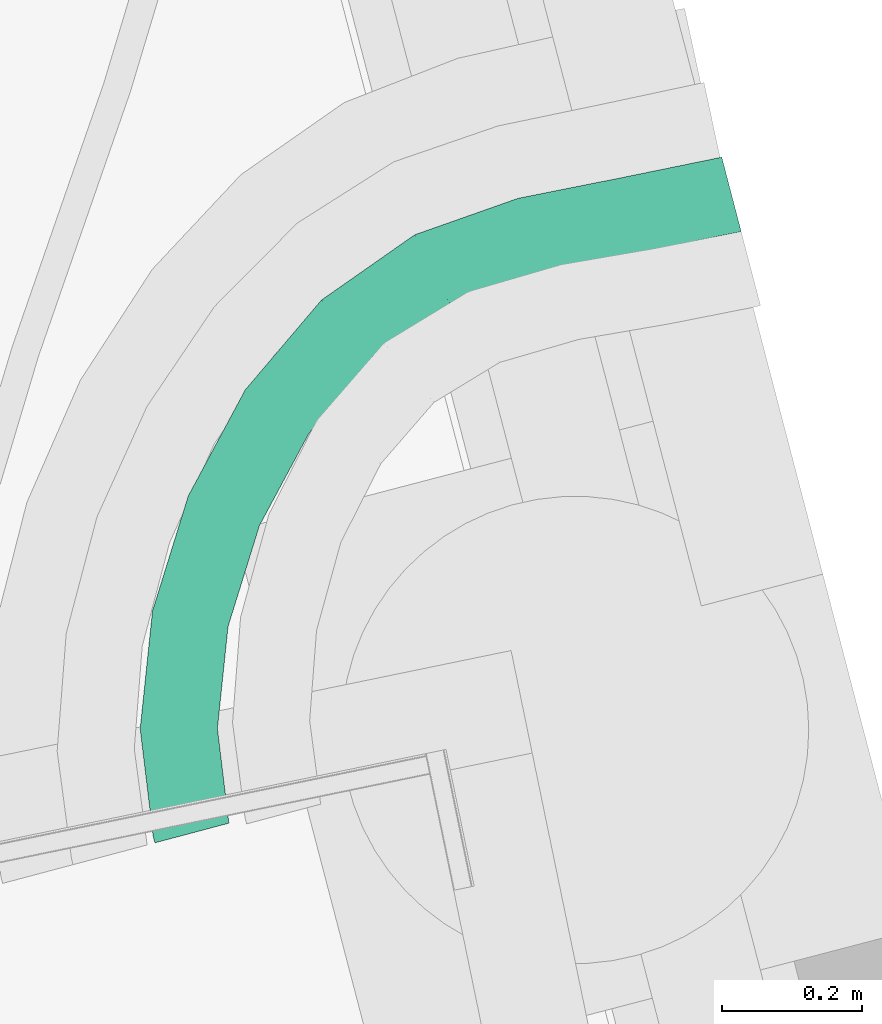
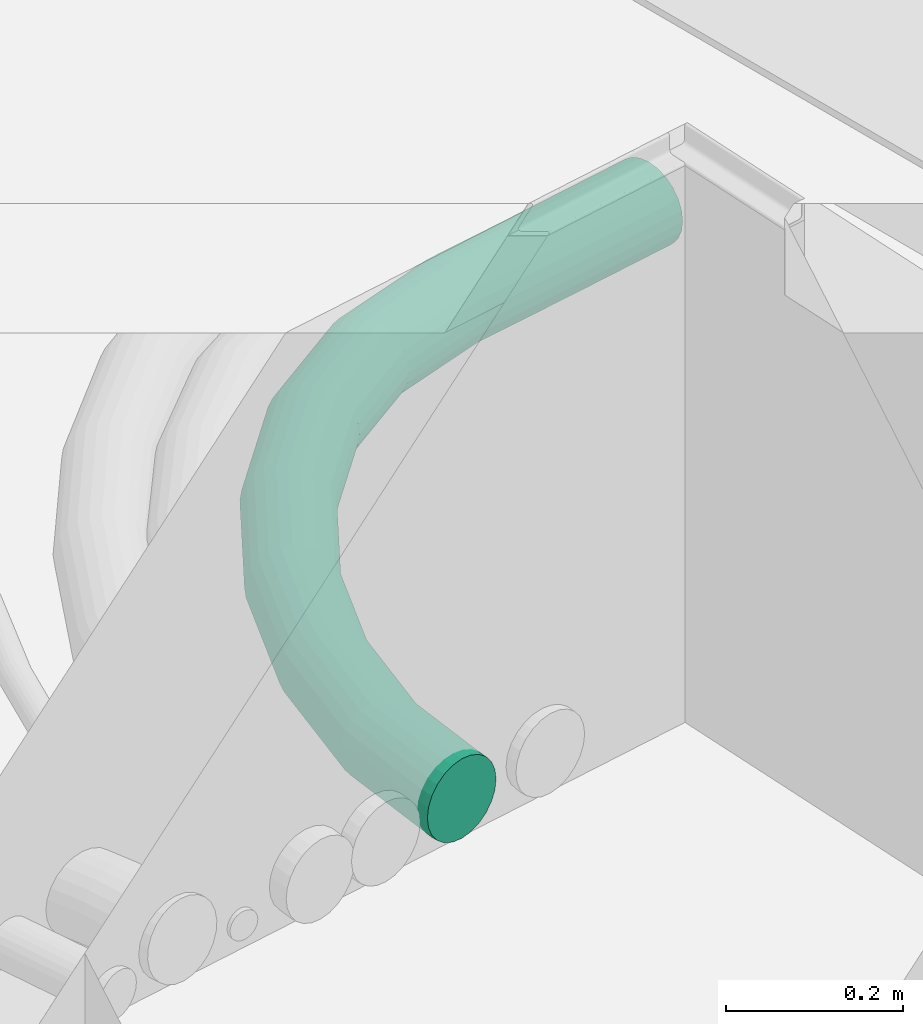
# One storey, part 24 of 29: 1 flow segment.
"""IFC2X3 building model written with IfcOpenShell, lengths in centimetres."""

import ifcopenshell
import ifcopenshell.guid

model = None  # the IFC model being written
_history = None  # IfcOwnerHistory: only IFC2X3 demands one
_inside = {}  # id of a spatial element -> (the spatial element, [elements in it])
_under = {}  # id of a project, library or spatial element -> (it, [spatial elements below it])
_declared = {}  # id of a project -> (the project, [libraries it declares])
_typed = {}  # id of a type object -> (the type object, [elements of that type])
_made_of = {}  # id of a material, layer set ... -> (it, [elements and type objects made of it])


def new_model(schema):
    """Start an empty IFC model of exactly this schema.

    Asked for "IFC4X3", IfcOpenShell would pick the latest addendum, in which some entities
    have other attributes; the version numbers below select the first issue.
    IFC2X3 requires an IfcOwnerHistory on every rooted entity: one is made here for all.
    """
    global model, _history
    if schema == "IFC4X3":
        model = ifcopenshell.file(schema_version=(4, 3, 0, 0))
    else:
        model = ifcopenshell.file(schema=schema)
    _inside.clear()
    _under.clear()
    _declared.clear()
    _typed.clear()
    _made_of.clear()
    _history = None
    if model.schema == "IFC2X3":
        org = make("IfcOrganization", Name="unknown")
        user = make(
            "IfcPersonAndOrganization",
            ThePerson=make("IfcPerson", FamilyName="unknown"),
            TheOrganization=org,
        )
        app = make(
            "IfcApplication",
            ApplicationDeveloper=org,
            Version="unknown",
            ApplicationFullName="unknown",
            ApplicationIdentifier="unknown",
        )
        _history = make(
            "IfcOwnerHistory",
            OwningUser=user,
            OwningApplication=app,
            ChangeAction="ADDED",
            CreationDate=0,
        )
    return model


def make(cls, **values):
    """One entity of the class cls with the attributes given. An attribute that is None is left unset."""
    return model.create_entity(
        cls, **{name: value for name, value in values.items() if value is not None}
    )


def entity(cls, *values):
    """Any entity or typed value of the class cls, its attributes in the order of the schema. None: left unset."""
    e = model.create_entity(cls)
    for i, value in enumerate(values):
        if value is not None:
            e[i] = value
    return e


def rooted(cls, **values):
    """An entity with a GlobalId (a new one), such as an element, a storey or a relation."""
    return make(cls, GlobalId=ifcopenshell.guid.new(), OwnerHistory=_history, **values)


def si_unit(unit_type, name, prefix=None):
    """IfcSIUnit, for example si_unit("LENGTHUNIT", "METRE", prefix="MILLI")."""
    return make("IfcSIUnit", UnitType=unit_type, Prefix=prefix, Name=name)


def converted_unit(unit_type, name, factor, base, dimensions=None, offset=None):
    """IfcConversionBasedUnit, such as the inch: factor (a typed value) times the base unit."""
    return make(
        "IfcConversionBasedUnit"
        if offset is None
        else "IfcConversionBasedUnitWithOffset",
        ConversionOffset=offset,
        Dimensions=None
        if dimensions is None
        else entity("IfcDimensionalExponents", *dimensions),
        UnitType=unit_type,
        Name=name,
        ConversionFactor=make(
            "IfcMeasureWithUnit", ValueComponent=factor, UnitComponent=base
        ),
    )


def derived_unit(unit_type, elements):
    """IfcDerivedUnit: a product of units, each with its exponent."""
    return make(
        "IfcDerivedUnit",
        Elements=[
            make("IfcDerivedUnitElement", Unit=unit, Exponent=power)
            for unit, power in elements
        ],
        UnitType=unit_type,
    )


def assignment(units):
    """IfcUnitAssignment: the units of a project."""
    return None if units is None else make("IfcUnitAssignment", Units=units)


def point(xyz):
    """IfcCartesianPoint."""
    return None if xyz is None else make("IfcCartesianPoint", Coordinates=xyz)


def direction(xyz):
    """IfcDirection."""
    return None if xyz is None else make("IfcDirection", DirectionRatios=xyz)


def frame(location, z_axis=None, x_axis=None):
    """IfcAxis2Placement3D, a coordinate frame: its origin and axes. An axis left out is left unset."""
    return make(
        "IfcAxis2Placement3D",
        Location=point(location),
        Axis=direction(z_axis),
        RefDirection=direction(x_axis),
    )


def origin():
    """The frame at (0, 0, 0) with its axes left unset."""
    return frame((0.0, 0.0, 0.0))


def place(relative_to, where):
    """IfcLocalPlacement: puts the frame where relative to a parent placement (None: the world)."""
    return make(
        "IfcLocalPlacement", PlacementRelTo=relative_to, RelativePlacement=where
    )


def context(
    kind, dimensions, precision=None, world=None, true_north=None, identifier=None
):
    """IfcGeometricRepresentationContext, for example the 3D "Model" context."""
    return make(
        "IfcGeometricRepresentationContext",
        ContextIdentifier=identifier,
        ContextType=kind,
        CoordinateSpaceDimension=dimensions,
        Precision=precision,
        WorldCoordinateSystem=world,
        TrueNorth=true_north,
    )


def subcontext(parent, identifier, kind, view, scale=None):
    """IfcGeometricRepresentationSubContext, for example "Body" below "Model"."""
    return make(
        "IfcGeometricRepresentationSubContext",
        ContextIdentifier=identifier,
        ContextType=kind,
        ParentContext=parent,
        TargetScale=scale,
        TargetView=view,
    )


def project(units=None, contexts=None):
    """IfcProject with its units and contexts."""
    return rooted(
        "IfcProject",
        Name="project",
        RepresentationContexts=contexts,
        UnitsInContext=assignment(units),
    )


def spatial(cls, under=None, at=None, **own):
    """A site, building, storey or space (cls), placed at a placement, below another one or the project."""
    s = rooted(cls, ObjectPlacement=at, **own)
    if under is not None:
        _under.setdefault(under.id(), (under, []))[1].append(s)
    return s


def faces_of(points, faces, orient=None, outer=None):
    """IfcFace entities. A face is a list of loops; a loop is a list of indices into points, from 0.

    orient and outer hold one flag for each loop. By default every Orientation is true, the
    first loop of a face is its IfcFaceOuterBound and the others are IfcFaceBound.
    """
    made = []
    for i, loops in enumerate(faces):
        bounds = []
        for j, loop in enumerate(loops):
            is_outer = j == 0 if outer is None else outer[i][j]
            bounds.append(
                make(
                    "IfcFaceOuterBound" if is_outer else "IfcFaceBound",
                    Bound=make("IfcPolyLoop", Polygon=[points[k] for k in loop]),
                    Orientation=True if orient is None else orient[i][j],
                )
            )
        made.append(make("IfcFace", Bounds=bounds))
    return made


def faceted_brep(points, faces, orient=None, outer=None, voids=None):
    """IfcFacetedBrep: a solid bounded by flat faces; with voids (closed shells), ...WithVoids."""
    shared = [point(p) for p in points]
    hull = make("IfcClosedShell", CfsFaces=faces_of(shared, faces, orient, outer))
    if voids is None:
        return make("IfcFacetedBrep", Outer=hull)
    return make(
        "IfcFacetedBrepWithVoids",
        Outer=hull,
        Voids=[
            make(cls, CfsFaces=faces_of(shared, fs, o, b)) for cls, fs, o, b in voids
        ],
    )


def shape(context_of_items, identifier, shape_type, items):
    """IfcShapeRepresentation: the items that make up one representation, for example the "Body"."""
    return make(
        "IfcShapeRepresentation",
        ContextOfItems=context_of_items,
        RepresentationIdentifier=identifier,
        RepresentationType=shape_type,
        Items=items,
    )


def made_of(thing, what):
    """Note that an element or type object is made of a material, layer set ...; save() writes the relation."""
    if what is not None:
        _made_of.setdefault(what.id(), (what, []))[1].append(thing)
    return thing


def type_object(cls, material=None, **own):
    """A type object (cls), such as IfcWallType, which elements share."""
    return made_of(rooted(cls, **own), material)


def element(
    cls,
    number,
    at=None,
    inside=None,
    cuts=None,
    type_object=None,
    material=None,
    context=None,
    identifier="Body",
    shape_type=None,
    held_by="IfcProductDefinitionShape",
    body=None,
    shapes=None,
    **own,
):
    """One element of the class cls, such as IfcWall. Its Tag is "e" and its number.

    at: its placement. inside: the storey or other place that contains it. cuts: it is an
    opening in that element (IfcRelVoidsElement). A single representation is given by context,
    identifier, shape_type and body (its items); several are given by shapes. held_by: the class
    of the entity that holds the representations. save() writes the other relations.
    """
    e = rooted(cls, Tag="e%d" % number, ObjectPlacement=at, **own)
    if body is not None:
        shapes = [shape(context, identifier, shape_type, body)]
    if shapes is not None:
        e.Representation = make(held_by, Representations=shapes)
    if inside is not None:
        _inside.setdefault(inside.id(), (inside, []))[1].append(e)
    if cuts is not None:
        rooted(
            "IfcRelVoidsElement", RelatingBuildingElement=cuts, RelatedOpeningElement=e
        )
    if type_object is not None:
        _typed.setdefault(type_object.id(), (type_object, []))[1].append(e)
    return made_of(e, material)


def aggregate(whole, parts):
    """IfcRelAggregates: a whole, such as a stair, and the parts it consists of."""
    return rooted("IfcRelAggregates", RelatingObject=whole, RelatedObjects=parts)


def save(model, path):
    """Write the relations noted so far, then the file.

    IfcRelAggregates (storeys below a building ...), IfcRelContainedInSpatialStructure (elements
    in a storey), IfcRelDefinesByType, IfcRelAssociatesMaterial and IfcRelDeclares: one each for
    every whole, place, type object, material and project.
    """
    for whole, parts in _under.values():
        aggregate(whole, parts)
    for where, things in _inside.values():
        rooted(
            "IfcRelContainedInSpatialStructure",
            RelatedElements=things,
            RelatingStructure=where,
        )
    for kind, things in _typed.values():
        rooted("IfcRelDefinesByType", RelatedObjects=things, RelatingType=kind)
    for what, things in _made_of.values():
        rooted("IfcRelAssociatesMaterial", RelatedObjects=things, RelatingMaterial=what)
    for by, libraries in _declared.values():
        rooted("IfcRelDeclares", RelatingContext=by, RelatedDefinitions=libraries)
    model.write(path)


model = new_model("IFC2X3")

# Units and contexts
model_context = context("Model", 3, precision=0.001, world=origin(), true_north=direction((6.12303176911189e-17, 1.0)))
body_context = subcontext(model_context, "Body", "Model", "MODEL_VIEW")
ifc_project = project(units=[si_unit("LENGTHUNIT", "METRE", prefix="CENTI"), si_unit("AREAUNIT", "SQUARE_METRE"), si_unit("VOLUMEUNIT", "CUBIC_METRE"), converted_unit("PLANEANGLEUNIT", "DEGREE", entity("IfcRatioMeasure", 0.0174532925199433), si_unit("PLANEANGLEUNIT", "RADIAN"), dimensions=[0, 0, 0, 0, 0, 0, 0]), si_unit("MASSUNIT", "GRAM", prefix="KILO"), derived_unit("MASSDENSITYUNIT", [(si_unit("MASSUNIT", "GRAM", prefix="KILO"), 1), (si_unit("LENGTHUNIT", "METRE"), -3)]), si_unit("TIMEUNIT", "SECOND"), si_unit("FREQUENCYUNIT", "HERTZ"), si_unit("THERMODYNAMICTEMPERATUREUNIT", "DEGREE_CELSIUS"), derived_unit("THERMALTRANSMITTANCEUNIT", [(si_unit("MASSUNIT", "GRAM", prefix="KILO"), 1), (si_unit("THERMODYNAMICTEMPERATUREUNIT", "KELVIN"), -1), (si_unit("TIMEUNIT", "SECOND"), -3)]), derived_unit("VOLUMETRICFLOWRATEUNIT", [(si_unit("LENGTHUNIT", "METRE"), 3), (si_unit("TIMEUNIT", "SECOND"), -1)]), si_unit("ELECTRICCURRENTUNIT", "AMPERE"), si_unit("ELECTRICVOLTAGEUNIT", "VOLT"), si_unit("POWERUNIT", "WATT"), si_unit("FORCEUNIT", "NEWTON"), si_unit("ILLUMINANCEUNIT", "LUX"), si_unit("LUMINOUSFLUXUNIT", "LUMEN"), si_unit("LUMINOUSINTENSITYUNIT", "CANDELA"), derived_unit("USERDEFINED", [(si_unit("MASSUNIT", "GRAM", prefix="KILO"), -1), (si_unit("LENGTHUNIT", "METRE"), -2), (si_unit("TIMEUNIT", "SECOND"), 3), (si_unit("LUMINOUSFLUXUNIT", "LUMEN"), 1)]), derived_unit("LINEARVELOCITYUNIT", [(si_unit("LENGTHUNIT", "METRE"), 1), (si_unit("TIMEUNIT", "SECOND"), -1)]), si_unit("PRESSUREUNIT", "PASCAL"), derived_unit("USERDEFINED", [(si_unit("LENGTHUNIT", "METRE"), -2), (si_unit("MASSUNIT", "GRAM", prefix="KILO"), 1), (si_unit("TIMEUNIT", "SECOND"), -2)])], contexts=[model_context])

# Site, building, storey
site_placement = place(None, origin())
site = spatial("IfcSite", under=ifc_project, at=site_placement, Name="Default", CompositionType="ELEMENT")
building_placement = place(site_placement, origin())
building = spatial("IfcBuilding", under=site, at=building_placement, Name="CAGE 03", CompositionType="ELEMENT")
storey_placement = place(building_placement, frame((0.0, 0.0, -34.0)))
storey = spatial("IfcBuildingStorey", under=building, at=storey_placement, Name="+3.66", CompositionType="ELEMENT", Elevation=-34.0000000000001)

# Flow segment
duct_segment_type = type_object("IfcDuctSegmentType", Name="Gaine flexible circulaire:Flex - Round", PredefinedType="FLEXIBLESEGMENT")
flow_segment_placement = place(storey_placement, frame((11602.3229049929, 3545.23054855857, -79.1595272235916)))
element("IfcFlowSegment", 1, at=flow_segment_placement, inside=storey, type_object=duct_segment_type, Name="Gaine flexible circulaire:Flex - Round", ObjectType="Gaine flexible circulaire:Flex - Round", context=body_context, shape_type="Brep", body=[
    faceted_brep([(3.82910210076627, 0.573686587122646, 9.54861452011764), (2.98443021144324, 0.348971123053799, 8.40952722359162), (2.45344726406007, 0.207709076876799, 7.08303197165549), (2.27233886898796, 0.15952722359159, 5.65952722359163), (2.45344726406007, 0.207709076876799, 4.23602247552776), (2.98443021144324, 0.348971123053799, 2.90952722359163), (3.82910210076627, 0.573686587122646, 1.77043992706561), (4.92989993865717, 0.866541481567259, 0.896387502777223), (6.21180617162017, 1.20757822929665, 0.346935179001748), (7.58746100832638, 1.57355573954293, 0.159527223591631), (8.96311584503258, 1.93953324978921, 0.346935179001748), (10.2450220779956, 2.2805699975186, 0.896387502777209), (11.3458199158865, 2.57342489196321, 1.7704399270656), (12.1904918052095, 2.79814035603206, 2.90952722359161), (12.7214747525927, 2.93940240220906, 4.23602247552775), (12.9025831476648, 2.98758425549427, 5.65952722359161), (12.7214747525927, 2.93940240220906, 7.08303197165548), (12.1904918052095, 2.79814035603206, 8.40952722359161), (11.3458199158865, 2.57342489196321, 9.54861452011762), (10.2450220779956, 2.2805699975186, 10.422666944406), (8.96311584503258, 1.93953324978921, 10.9721192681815), (7.58746100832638, 1.57355573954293, 11.1595272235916), (6.21180617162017, 1.20757822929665, 10.9721192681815), (4.92989993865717, 0.866541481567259, 10.422666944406), (2.01506601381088, 1.1265774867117, 5.65952722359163), (2.1995483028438, 1.16207737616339, 4.23602247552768), (2.74042300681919, 1.26615778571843, 2.90952722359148), (3.60083040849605, 1.43172580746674, 1.77043992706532), (4.72213516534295, 1.64749825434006, 0.896387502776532), (6.02792221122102, 1.89877059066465, 0.346935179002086), (7.42920431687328, 2.16841902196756, 0.159527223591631), (8.83048642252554, 2.43806745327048, 0.346935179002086), (10.1362734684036, 2.68933978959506, 0.896387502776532), (11.2575782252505, 2.90511223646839, 1.77043992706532), (12.6588603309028, 3.17476066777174, 4.23602247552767), (12.8433426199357, 3.210260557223, 5.65952722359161), (12.1179856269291, 3.07068025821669, 2.90952722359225), (12.1179856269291, 3.07068025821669, 8.40952722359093), (11.2575782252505, 2.90511223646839, 9.54861452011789), (12.6588603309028, 3.17476066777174, 7.0830319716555), (8.83048642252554, 2.43806745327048, 10.9721192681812), (7.42920431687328, 2.16841902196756, 11.1595272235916), (10.1362734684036, 2.68933978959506, 10.4226669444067), (6.02792221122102, 1.89877059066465, 10.9721192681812), (4.72213516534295, 1.64749825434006, 10.4226669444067), (3.60083040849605, 1.43172580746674, 9.54861452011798), (2.74042300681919, 1.26615778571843, 8.40952722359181), (2.1995483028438, 1.16207737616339, 7.08303197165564), (84.2187544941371, 95.7929040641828, 10.422666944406), (84.5539329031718, 94.5094536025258, 10.9721192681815), (84.9136236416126, 93.1321416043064, 11.1595272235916), (85.2733143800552, 91.7548296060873, 10.9721192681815), (85.6084927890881, 90.4713791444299, 10.422666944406), (85.896317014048, 89.3692552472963, 9.54861452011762), (86.1171723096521, 88.5235658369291, 8.40952722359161), (86.2560077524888, 87.9919432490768, 7.08303197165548), (86.3033619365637, 87.810616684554, 5.65952722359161), (86.2560077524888, 87.9919432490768, 4.23602247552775), (86.1171723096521, 88.5235658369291, 2.90952722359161), (85.896317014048, 89.3692552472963, 1.77043992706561), (85.6084927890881, 90.4713791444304, 0.896387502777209), (85.2733143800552, 91.7548296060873, 0.346935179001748), (84.9136236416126, 93.1321416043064, 0.159527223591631), (84.5539329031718, 94.5094536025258, 0.346935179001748), (84.2187544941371, 95.7929040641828, 0.896387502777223), (83.9309302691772, 96.8950279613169, 1.77043992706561), (83.7100749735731, 97.7407173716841, 2.90952722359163), (83.5712395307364, 98.2723399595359, 4.23602247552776), (83.5238853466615, 98.4536665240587, 5.65952722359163), (83.5712395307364, 98.2723399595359, 7.08303197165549), (83.7100749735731, 97.7407173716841, 8.40952722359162), (83.9309302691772, 96.8950279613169, 9.54861452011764), (0.15952722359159, 16.4897730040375, 5.65952722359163), (0.348113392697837, 16.4912942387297, 4.23602247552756), (0.901020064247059, 16.4957542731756, 2.90952722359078), (1.78056756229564, 16.5028491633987, 1.77043992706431), (2.92681617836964, 16.5120954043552, 0.896387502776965), (4.26165096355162, 16.5228628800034, 0.346935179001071), (5.69410513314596, 16.5344178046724, 0.159527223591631), (7.12655930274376, 16.5459727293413, 0.346935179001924), (8.46139408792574, 16.5567402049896, 0.896387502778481), (9.60764270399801, 16.5659864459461, 1.77043992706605), (10.4871902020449, 16.5730813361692, 2.90952722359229), (11.0400968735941, 16.577541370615, 4.23602247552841), (11.2286830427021, 16.5790626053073, 5.65952722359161), (11.0400968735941, 16.577541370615, 7.08303197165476), (10.4871902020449, 16.5730813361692, 8.40952722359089), (9.60764270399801, 16.5659864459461, 9.54861452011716), (7.12655930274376, 16.5459727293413, 10.9721192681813), (5.69410513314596, 16.5344178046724, 11.1595272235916), (8.46139408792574, 16.5567402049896, 10.4226669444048), (4.26165096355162, 16.5228628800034, 10.9721192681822), (2.92681617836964, 16.5120954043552, 10.4226669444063), (1.78056756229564, 16.5028491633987, 9.54861452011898), (0.901020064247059, 16.4957542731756, 8.40952722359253), (0.348113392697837, 16.4912942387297, 7.08303197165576), (1.92511832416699, 33.3949964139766, 5.65952722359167), (2.10958425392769, 33.3570670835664, 4.23602247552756), (2.65041099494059, 33.2458639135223, 2.90952722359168), (3.51074209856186, 33.0689652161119, 1.77043992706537), (4.63194742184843, 32.8384263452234, 0.896387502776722), (5.93761867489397, 32.5699581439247, 0.346935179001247), (7.3387765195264, 32.2818562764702, 0.159527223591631), (8.73993436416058, 31.9937544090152, 0.34693517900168), (10.0456056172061, 31.7252862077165, 0.896387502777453), (11.1668109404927, 31.494747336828, 1.77043992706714), (12.0271420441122, 31.3178486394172, 2.90952722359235), (12.5679687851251, 31.2066454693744, 4.23602247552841), (12.7524347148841, 31.1687161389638, 5.65952722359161), (12.5679687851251, 31.2066454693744, 7.08303197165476), (12.0271420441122, 31.3178486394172, 8.40952722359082), (11.1668109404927, 31.494747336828, 9.54861452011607), (8.73993436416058, 31.9937544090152, 10.9721192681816), (7.3387765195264, 32.2818562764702, 11.1595272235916), (10.0456056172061, 31.7252862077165, 10.4226669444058), (5.93761867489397, 32.5699581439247, 10.972119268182), (4.63194742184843, 32.8384263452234, 10.4226669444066), (3.51074209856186, 33.0689652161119, 9.54861452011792), (2.65041099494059, 33.2458639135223, 8.40952722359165), (2.10958425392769, 33.3570670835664, 7.0830319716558), (7.06296431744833, 49.9153871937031, 5.65952722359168), (7.2365761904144, 49.8425573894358, 4.23602247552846), (7.7455804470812, 49.6290312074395, 2.90952722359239), (8.55528928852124, 49.2893601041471, 1.77043992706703), (9.61052239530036, 48.8466921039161, 0.896387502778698), (10.839367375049, 48.3311942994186, 0.346935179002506), (12.1580804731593, 47.7779970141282, 0.159527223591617), (13.4767935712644, 47.22479972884, 0.346935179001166), (14.7056385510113, 46.7093019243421, 0.896387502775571), (15.7608716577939, 46.2666339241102, 1.77043992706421), (16.5705804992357, 45.9269628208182, 2.90952722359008), (17.0795847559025, 45.7134366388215, 4.23602247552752), (17.2531966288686, 45.6406068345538, 5.6595272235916), (17.0795847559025, 45.7134366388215, 7.08303197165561), (16.5705804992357, 45.9269628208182, 8.40952722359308), (15.7608716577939, 46.2666339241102, 9.54861452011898), (13.4767935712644, 47.22479972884, 10.9721192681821), (12.1580804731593, 47.7779970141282, 11.1595272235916), (14.7056385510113, 46.7093019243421, 10.4226669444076), (10.839367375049, 48.3311942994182, 10.9721192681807), (9.61052239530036, 48.8466921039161, 10.4226669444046), (8.55528928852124, 49.2893601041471, 9.54861452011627), (7.7455804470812, 49.6290312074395, 8.40952722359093), (7.2365761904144, 49.8425573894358, 7.08303197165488), (15.2184009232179, 65.0996344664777, 5.65952722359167), (15.3741274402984, 64.9935047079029, 4.23602247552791), (15.8306944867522, 64.6823479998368, 2.90952722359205), (16.5569877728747, 64.187369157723, 1.77043992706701), (17.5035116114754, 63.5423001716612, 0.89638750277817), (18.6057619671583, 62.7911014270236, 0.34693517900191), (19.7886222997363, 61.9849658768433, 0.159527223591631), (20.9714826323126, 61.1788303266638, 0.346935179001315), (22.0737329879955, 60.4276315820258, 0.896387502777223), (23.0202568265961, 59.7825625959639, 1.77043992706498), (23.7465501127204, 59.2875837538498, 2.90952722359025), (24.2031171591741, 58.9764270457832, 4.23602247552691), (24.3588436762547, 58.8702972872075, 5.65952722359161), (24.2031171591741, 58.9764270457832, 7.08303197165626), (23.7465501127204, 59.2875837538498, 8.40952722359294), (23.0202568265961, 59.7825625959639, 9.54861452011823), (20.9714826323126, 61.1788303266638, 10.9721192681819), (19.7886222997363, 61.9849658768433, 11.1595272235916), (22.0737329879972, 60.4276315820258, 10.422666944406), (18.6057619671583, 62.7911014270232, 10.9721192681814), (17.5035116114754, 63.5423001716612, 10.4226669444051), (16.5569877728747, 64.187369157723, 9.5486145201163), (15.8306944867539, 64.6823479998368, 8.40952722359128), (15.3741274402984, 64.9935047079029, 7.08303197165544), (26.1316027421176, 77.9635998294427, 5.65952722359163), (26.2588835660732, 77.8239396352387, 4.23602247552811), (26.6320520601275, 77.4144766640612, 2.90952722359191), (27.225677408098, 76.7631151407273, 1.77043992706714), (27.9993050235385, 75.914244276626, 0.896387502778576), (28.9002134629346, 74.9257132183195, 0.346935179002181), (29.8670073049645, 73.8648887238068, 0.159527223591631), (30.8338011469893, 72.8040642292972, 0.346935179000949), (31.7347095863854, 71.8155331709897, 0.896387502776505), (32.5083372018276, 70.9666623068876, 1.77043992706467), (33.1019625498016, 70.3153007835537, 2.90952722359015), (33.4751310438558, 69.9058378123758, 4.23602247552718), (33.6024118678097, 69.7661776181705, 5.65952722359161), (33.4751310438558, 69.9058378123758, 7.08303197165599), (33.1019625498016, 70.3153007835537, 8.40952722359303), (32.5083372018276, 70.9666623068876, 9.54861452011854), (30.8338011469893, 72.8040642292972, 10.9721192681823), (29.8670073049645, 73.8648887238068, 11.1595272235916), (31.7347095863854, 71.8155331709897, 10.4226669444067), (28.9002134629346, 74.9257132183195, 10.9721192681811), (27.9993050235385, 75.914244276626, 10.4226669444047), (27.225677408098, 76.7631151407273, 9.54861452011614), (26.6320520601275, 77.4144766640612, 8.40952722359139), (26.2588835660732, 77.8239396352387, 7.08303197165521), (39.4910307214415, 87.3177580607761, 5.65952722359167), (39.5775322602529, 87.1495445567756, 4.23602247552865), (39.8311419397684, 86.6563675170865, 2.90952722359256), (40.2345766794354, 85.8718361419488, 1.77043992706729), (40.7603430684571, 84.8494149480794, 0.89638750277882), (41.372610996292, 83.6587802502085, 0.346935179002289), (42.0296554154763, 82.3810718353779, 0.159527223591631), (42.6866998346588, 81.103363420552, 0.34693517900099), (43.2989677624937, 79.9127287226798, 0.896387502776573), (43.8247341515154, 78.8903075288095, 1.77043992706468), (44.2281688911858, 78.1057761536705, 2.90952722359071), (44.4817785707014, 77.6125991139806, 4.23602247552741), (44.5682801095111, 77.4443856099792, 5.65952722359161), (44.4817785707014, 77.6125991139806, 7.08303197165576), (44.2281688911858, 78.1057761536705, 8.40952722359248), (43.8247341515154, 78.8903075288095, 9.54861452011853), (42.6866998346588, 81.103363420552, 10.9721192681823), (42.0296554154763, 82.3810718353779, 11.1595272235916), (43.2989677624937, 79.9127287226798, 10.4226669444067), (41.372610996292, 83.6587802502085, 10.972119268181), (40.7603430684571, 84.8494149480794, 10.4226669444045), (40.2345766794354, 85.8718361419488, 9.54861452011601), (39.8311419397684, 86.6563675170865, 8.40952722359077), (39.5775322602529, 87.1495445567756, 7.08303197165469), (54.3375800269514, 92.5543227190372, 5.65952722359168), (54.387300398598, 92.3731360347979, 4.23602247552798), (54.5330731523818, 91.8419235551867, 2.90952722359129), (54.7649641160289, 90.9968865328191, 1.77043992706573), (55.0671703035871, 89.8956128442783, 0.896387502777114), (55.4190968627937, 88.613152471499, 0.346935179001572), (55.7967605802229, 87.2369029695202, 0.159527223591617), (56.1744242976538, 85.860653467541, 0.346935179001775), (56.5263508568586, 84.5781930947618, 0.896387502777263), (56.8285570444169, 83.4769194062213, 1.77043992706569), (57.0604480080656, 82.6318823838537, 2.90952722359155), (57.2062207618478, 82.1006699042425, 4.23602247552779), (57.2559411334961, 81.9194832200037, 5.6595272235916), (57.2062207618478, 82.1006699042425, 7.08303197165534), (57.0604480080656, 82.6318823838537, 8.40952722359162), (56.8285570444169, 83.4769194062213, 9.54861452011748), (56.1744242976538, 85.860653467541, 10.9721192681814), (55.7967605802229, 87.2369029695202, 11.1595272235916), (56.5263508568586, 84.5781930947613, 10.4226669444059), (55.4190968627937, 88.613152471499, 10.9721192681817), (55.0671703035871, 89.8956128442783, 10.4226669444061), (54.7649641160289, 90.9968865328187, 9.54861452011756), (54.5330731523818, 91.8419235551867, 8.40952722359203), (54.387300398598, 92.3731360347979, 7.0830319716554), (69.3222796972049, 95.3470856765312, 4.23602247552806), (69.4310356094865, 94.8085021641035, 2.90952722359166), (69.2851850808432, 95.5307864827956, 5.65952722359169), (69.6040412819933, 93.9517395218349, 1.77043992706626), (70.0920666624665, 91.5349290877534, 0.346935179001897), (70.3738282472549, 90.1395829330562, 0.159527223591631), (69.8295066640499, 92.8351847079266, 0.896387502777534), (70.6555898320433, 88.7442367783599, 0.346935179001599), (70.9181498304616, 87.4439811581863, 0.896387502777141), (71.1436152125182, 86.327426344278, 1.77043992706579), (71.316620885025, 85.4706637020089, 2.90952722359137), (71.4253767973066, 84.9320801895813, 4.23602247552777), (71.4624714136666, 84.7483793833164, 5.65952722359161), (71.4253767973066, 84.9320801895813, 7.08303197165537), (71.316620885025, 85.4706637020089, 8.4095272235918), (71.1436152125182, 86.327426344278, 9.54861452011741), (70.9181498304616, 87.4439811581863, 10.4226669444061), (70.6555898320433, 88.7442367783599, 10.9721192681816), (70.3738282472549, 90.1395829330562, 11.1595272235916), (70.0920666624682, 91.5349290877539, 10.9721192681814), (69.8295066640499, 92.8351847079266, 10.4226669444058), (69.6040412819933, 93.9517395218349, 9.54861452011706), (69.4310356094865, 94.8085021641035, 8.40952722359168), (69.3222796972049, 95.3470856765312, 7.0830319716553), (83.4297177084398, 98.2353809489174, 4.23602247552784), (83.5543278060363, 97.7000433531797, 2.90952722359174), (83.3872155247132, 98.4179746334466, 5.65952722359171), (83.7525538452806, 96.848444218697, 1.7704399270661), (84.3117224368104, 94.4461993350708, 0.346935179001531), (84.6345585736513, 93.0592626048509, 0.159527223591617), (84.0108870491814, 95.738618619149, 0.896387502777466), (84.9573947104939, 91.6723258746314, 0.346935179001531), (85.2582300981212, 90.3799065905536, 0.896387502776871), (85.5165633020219, 89.2700809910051, 1.77043992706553), (85.7147893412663, 88.4184818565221, 2.90952722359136), (85.8393994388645, 87.8831442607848, 4.23602247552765), (85.8819016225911, 87.7005505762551, 5.6595272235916), (85.8393994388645, 87.8831442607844, 7.0830319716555), (85.7147893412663, 88.4184818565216, 8.40952722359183), (85.5165633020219, 89.2700809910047, 9.54861452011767), (85.2582300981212, 90.3799065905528, 10.422666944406), (84.9573947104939, 91.672325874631, 10.9721192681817), (84.6345585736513, 93.0592626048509, 11.1595272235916), (84.3117224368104, 94.4461993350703, 10.9721192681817), (84.0108870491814, 95.7386186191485, 10.422666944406), (83.7525538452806, 96.848444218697, 9.54861452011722), (83.5543278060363, 97.7000433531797, 8.40952722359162), (83.4297177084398, 98.2353809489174, 7.08303197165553)], [[[0, 1, 2, 3, 4, 5, 6, 7, 8, 9, 10, 11, 12, 13, 14, 15, 16, 17, 18, 19, 20, 21, 22, 23]], [[3, 24, 25, 4]], [[4, 25, 26, 5]], [[5, 26, 27, 6]], [[7, 28, 29, 8]], [[8, 29, 30, 9]], [[6, 27, 28, 7]], [[31, 32, 11, 10]], [[30, 31, 10, 9]], [[11, 32, 33, 12]], [[34, 35, 15, 14]], [[36, 34, 14, 13]], [[12, 33, 36, 13]], [[17, 37, 38, 18]], [[39, 37, 17, 16]], [[15, 35, 39, 16]], [[40, 41, 21, 20]], [[42, 40, 20, 19]], [[38, 42, 19, 18]], [[23, 22, 43, 44]], [[0, 23, 44, 45]], [[21, 41, 43, 22]], [[2, 1, 46, 47]], [[3, 2, 47, 24]], [[45, 46, 1, 0]], [[48, 49, 50, 51, 52, 53, 54, 55, 56, 57, 58, 59, 60, 61, 62, 63, 64, 65, 66, 67, 68, 69, 70, 71]], [[24, 72, 73, 25]], [[25, 73, 74, 26]], [[26, 74, 75, 27]], [[27, 75, 76, 28]], [[28, 76, 77, 29]], [[78, 30, 29, 77]], [[79, 80, 32, 31]], [[78, 79, 31, 30]], [[81, 33, 32, 80]], [[82, 83, 34, 36]], [[82, 36, 33, 81]], [[84, 35, 34, 83]], [[85, 86, 37, 39]], [[84, 85, 39, 35]], [[38, 37, 86, 87]], [[88, 89, 41, 40]], [[90, 88, 40, 42]], [[87, 90, 42, 38]], [[43, 41, 89, 91]], [[44, 43, 91, 92]], [[45, 44, 92, 93]], [[47, 46, 94, 95]], [[24, 47, 95, 72]], [[93, 94, 46, 45]], [[73, 72, 96, 97]], [[74, 73, 97, 98]], [[98, 99, 75, 74]], [[76, 75, 99, 100]], [[77, 76, 100, 101]], [[78, 77, 101, 102]], [[103, 104, 80, 79]], [[102, 103, 79, 78]], [[81, 80, 104, 105]], [[106, 107, 83, 82]], [[105, 106, 82, 81]], [[84, 83, 107, 108]], [[109, 110, 86, 85]], [[108, 109, 85, 84]], [[111, 87, 86, 110]], [[112, 113, 89, 88]], [[114, 112, 88, 90]], [[114, 90, 87, 111]], [[89, 113, 115, 91]], [[91, 115, 116, 92]], [[117, 93, 92, 116]], [[94, 118, 119, 95]], [[95, 119, 96, 72]], [[118, 94, 93, 117]], [[97, 96, 120, 121]], [[98, 97, 121, 122]], [[122, 123, 99, 98]], [[100, 99, 123, 124]], [[101, 100, 124, 125]], [[102, 101, 125, 126]], [[127, 128, 104, 103]], [[126, 127, 103, 102]], [[105, 104, 128, 129]], [[130, 131, 107, 106]], [[129, 130, 106, 105]], [[108, 107, 131, 132]], [[133, 134, 110, 109]], [[132, 133, 109, 108]], [[135, 111, 110, 134]], [[136, 137, 113, 112]], [[138, 136, 112, 114]], [[138, 114, 111, 135]], [[113, 137, 139, 115]], [[115, 139, 140, 116]], [[141, 117, 116, 140]], [[118, 142, 143, 119]], [[119, 143, 120, 96]], [[142, 118, 117, 141]], [[120, 144, 145, 121]], [[121, 145, 146, 122]], [[122, 146, 147, 123]], [[123, 147, 148, 124]], [[124, 148, 149, 125]], [[150, 126, 125, 149]], [[151, 152, 128, 127]], [[150, 151, 127, 126]], [[153, 129, 128, 152]], [[154, 155, 131, 130]], [[154, 130, 129, 153]], [[156, 132, 131, 155]], [[157, 158, 134, 133]], [[156, 157, 133, 132]], [[135, 134, 158, 159]], [[160, 161, 137, 136]], [[162, 160, 136, 138]], [[159, 162, 138, 135]], [[139, 137, 161, 163]], [[140, 139, 163, 164]], [[141, 140, 164, 165]], [[143, 142, 166, 167]], [[120, 143, 167, 144]], [[165, 166, 142, 141]], [[144, 168, 169, 145]], [[145, 169, 170, 146]], [[146, 170, 171, 147]], [[147, 171, 172, 148]], [[148, 172, 173, 149]], [[174, 150, 149, 173]], [[175, 176, 152, 151]], [[174, 175, 151, 150]], [[177, 153, 152, 176]], [[178, 179, 155, 154]], [[178, 154, 153, 177]], [[180, 156, 155, 179]], [[181, 182, 158, 157]], [[180, 181, 157, 156]], [[159, 158, 182, 183]], [[184, 185, 161, 160]], [[186, 184, 160, 162]], [[183, 186, 162, 159]], [[163, 161, 185, 187]], [[164, 163, 187, 188]], [[165, 164, 188, 189]], [[167, 166, 190, 191]], [[144, 167, 191, 168]], [[189, 190, 166, 165]], [[168, 192, 193, 169]], [[169, 193, 194, 170]], [[170, 194, 195, 171]], [[171, 195, 196, 172]], [[172, 196, 197, 173]], [[198, 174, 173, 197]], [[199, 200, 176, 175]], [[198, 199, 175, 174]], [[201, 177, 176, 200]], [[202, 203, 179, 178]], [[202, 178, 177, 201]], [[204, 180, 179, 203]], [[205, 206, 182, 181]], [[204, 205, 181, 180]], [[183, 182, 206, 207]], [[208, 209, 185, 184]], [[210, 208, 184, 186]], [[207, 210, 186, 183]], [[187, 185, 209, 211]], [[188, 187, 211, 212]], [[189, 188, 212, 213]], [[191, 190, 214, 215]], [[168, 191, 215, 192]], [[213, 214, 190, 189]], [[193, 192, 216, 217]], [[194, 193, 217, 218]], [[218, 219, 195, 194]], [[196, 195, 219, 220]], [[197, 196, 220, 221]], [[198, 197, 221, 222]], [[223, 224, 200, 199]], [[222, 223, 199, 198]], [[201, 200, 224, 225]], [[226, 227, 203, 202]], [[225, 226, 202, 201]], [[204, 203, 227, 228]], [[229, 230, 206, 205]], [[228, 229, 205, 204]], [[231, 207, 206, 230]], [[232, 233, 209, 208]], [[234, 232, 208, 210]], [[234, 210, 207, 231]], [[209, 233, 235, 211]], [[211, 235, 236, 212]], [[237, 213, 212, 236]], [[214, 238, 239, 215]], [[215, 239, 216, 192]], [[238, 214, 213, 237]], [[240, 241, 218, 217]], [[242, 240, 217, 216]], [[241, 243, 219, 218]], [[244, 245, 222, 221]], [[246, 244, 221, 220]], [[243, 246, 220, 219]], [[223, 222, 245, 247]], [[224, 223, 247, 248]], [[225, 224, 248, 249]], [[227, 226, 250, 251]], [[228, 227, 251, 252]], [[249, 250, 226, 225]], [[228, 252, 253, 229]], [[229, 253, 254, 230]], [[255, 231, 230, 254]], [[231, 255, 256, 234]], [[234, 256, 257, 232]], [[258, 233, 232, 257]], [[259, 260, 236, 235]], [[258, 259, 235, 233]], [[261, 237, 236, 260]], [[262, 263, 239, 238]], [[262, 238, 237, 261]], [[242, 216, 239, 263]], [[264, 265, 241, 240]], [[266, 264, 240, 242]], [[243, 241, 265, 267]], [[268, 269, 245, 244]], [[270, 268, 244, 246]], [[267, 270, 246, 243]], [[247, 245, 269, 271]], [[248, 247, 271, 272]], [[249, 248, 272, 273]], [[251, 250, 274, 275]], [[252, 251, 275, 276]], [[273, 274, 250, 249]], [[252, 276, 277, 253]], [[253, 277, 278, 254]], [[254, 278, 279, 255]], [[255, 279, 280, 256]], [[256, 280, 281, 257]], [[282, 258, 257, 281]], [[283, 284, 260, 259]], [[282, 283, 259, 258]], [[285, 261, 260, 284]], [[286, 287, 263, 262]], [[286, 262, 261, 285]], [[266, 242, 263, 287]], [[266, 68, 67, 264]], [[264, 67, 66, 265]], [[265, 66, 65, 267]], [[270, 64, 63, 268]], [[268, 63, 62, 269]], [[270, 267, 65, 64]], [[269, 62, 61, 271]], [[271, 61, 60, 272]], [[272, 60, 59, 273]], [[274, 58, 57, 275]], [[275, 57, 56, 276]], [[273, 59, 58, 274]], [[277, 276, 56, 55]], [[278, 277, 55, 54]], [[279, 278, 54, 53]], [[281, 280, 52, 51]], [[282, 281, 51, 50]], [[53, 52, 280, 279]], [[283, 282, 50, 49]], [[284, 283, 49, 48]], [[285, 284, 48, 71]], [[287, 286, 70, 69]], [[266, 287, 69, 68]], [[285, 71, 70, 286]]]),
])

save(model, "model.ifc")
